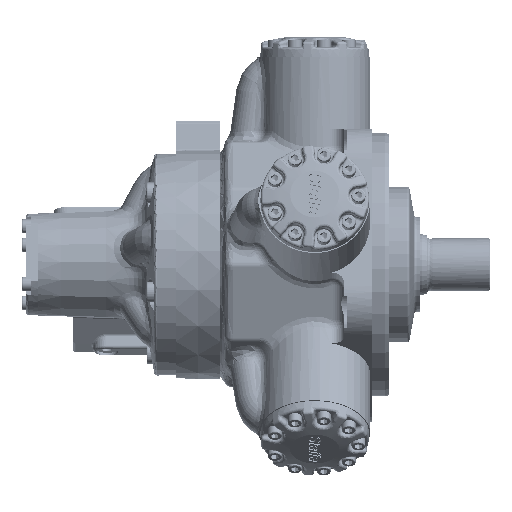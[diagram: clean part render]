
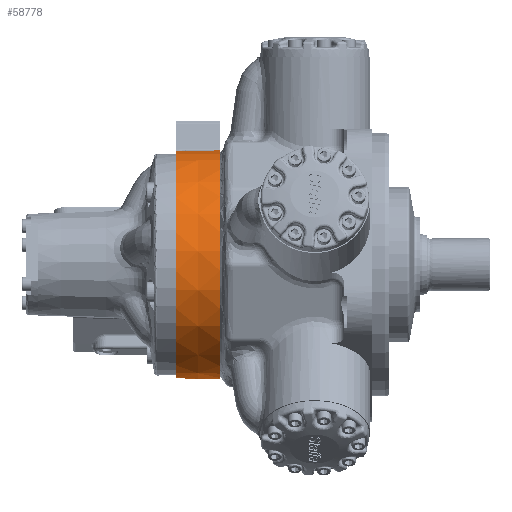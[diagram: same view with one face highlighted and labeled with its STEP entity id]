
A CAD part, front view. The second image highlights one B-rep face of the part: STEP entity #58778.
In plain terms, the highlighted conical face has half-angle 1 degrees and reference radius 130.68 mm.
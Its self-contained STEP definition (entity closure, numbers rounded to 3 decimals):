
#58493=CARTESIAN_POINT('',(-159.067,84.887,98.769));
#58494=VERTEX_POINT('',#58493);
#58512=CARTESIAN_POINT('',(-108.267,85.191,99.677));
#58513=VERTEX_POINT('',#58512);
#58530=CARTESIAN_POINT('',(-108.267,85.191,99.677));
#58531=CARTESIAN_POINT('',(-125.201,85.09,99.375));
#58532=CARTESIAN_POINT('',(-142.134,84.988,99.072));
#58533=CARTESIAN_POINT('',(-159.067,84.887,98.769));
#58534=B_SPLINE_CURVE_WITH_KNOTS('',3,(#58530,#58531,#58532,#58533),.UNSPECIFIED.,.F.,.U.,(4,4),(-5.739,-0.658),.UNSPECIFIED.);
#58535=EDGE_CURVE('',#58513,#58494,#58534,.T.);
#58745=CARTESIAN_POINT('',(-133.57,0.,0.));
#58746=DIRECTION('',(1.0,0.,0.));
#58747=DIRECTION('',(0.,0.951,-0.309));
#58748=AXIS2_PLACEMENT_3D('',#58745,#58746,#58747);
#58749=CONICAL_SURFACE('',#58748,130.68,1.);
#58750=CARTESIAN_POINT('',(-159.067,-10.62,129.802));
#58751=VERTEX_POINT('',#58750);
#58752=CARTESIAN_POINT('',(-159.067,0.,0.));
#58753=DIRECTION('',(1.0,0.,0.));
#58754=DIRECTION('',(0.,0.951,-0.309));
#58755=AXIS2_PLACEMENT_3D('',#58752,#58753,#58754);
#58756=CIRCLE('',#58755,130.235);
#58757=EDGE_CURVE('',#58751,#58494,#58756,.T.);
#58758=ORIENTED_EDGE('',*,*,#58757,.T.);
#58759=ORIENTED_EDGE('',*,*,#58535,.F.);
#58760=CARTESIAN_POINT('',(-108.267,-10.332,130.714));
#58761=VERTEX_POINT('',#58760);
#58762=CARTESIAN_POINT('',(-108.267,0.,0.));
#58763=DIRECTION('',(-1.0,0.,0.));
#58764=DIRECTION('',(0.,0.951,-0.309));
#58765=AXIS2_PLACEMENT_3D('',#58762,#58763,#58764);
#58766=CIRCLE('',#58765,131.122);
#58767=EDGE_CURVE('',#58513,#58761,#58766,.T.);
#58768=ORIENTED_EDGE('',*,*,#58767,.T.);
#58769=CARTESIAN_POINT('',(-159.067,-10.62,129.802));
#58770=CARTESIAN_POINT('',(-142.134,-10.524,130.106));
#58771=CARTESIAN_POINT('',(-125.201,-10.428,130.41));
#58772=CARTESIAN_POINT('',(-108.267,-10.332,130.714));
#58773=B_SPLINE_CURVE_WITH_KNOTS('',3,(#58769,#58770,#58771,#58772),.UNSPECIFIED.,.F.,.U.,(4,4),(-5.764,-0.683),.UNSPECIFIED.);
#58774=EDGE_CURVE('',#58751,#58761,#58773,.T.);
#58775=ORIENTED_EDGE('',*,*,#58774,.F.);
#58776=EDGE_LOOP('',(#58758,#58759,#58768,#58775));
#58777=FACE_OUTER_BOUND('',#58776,.T.);
#58778=ADVANCED_FACE('',(#58777),#58749,.T.);
